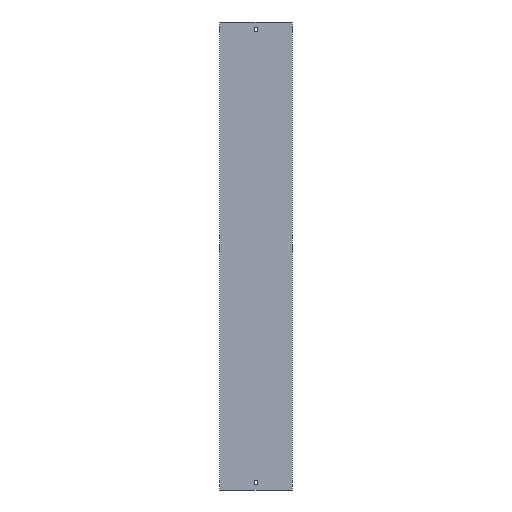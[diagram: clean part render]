
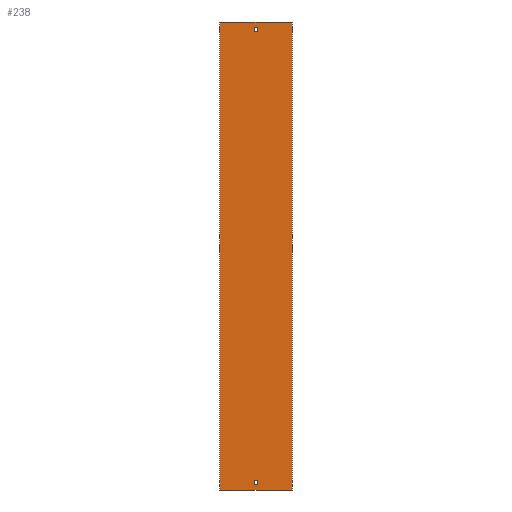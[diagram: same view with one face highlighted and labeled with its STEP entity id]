
A CAD part, front view. The second image highlights one B-rep face of the part: STEP entity #238.
In plain terms, the highlighted planar face has unit normal (0, -1, 0).
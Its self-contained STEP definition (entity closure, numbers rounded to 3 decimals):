
#15 = EDGE_CURVE ( 'NONE', #326, #116, #560, .T. ) ;
#53 = LINE ( 'NONE', #1107, #1040 ) ;
#78 = DIRECTION ( 'NONE',  ( 0., 0., 1. ) ) ;
#110 = VERTEX_POINT ( 'NONE', #1521 ) ;
#113 = CARTESIAN_POINT ( 'NONE',  ( -3.25, 0., -488. ) ) ;
#116 = VERTEX_POINT ( 'NONE', #589 ) ;
#129 = ORIENTED_EDGE ( 'NONE', *, *, #408, .T. ) ;
#147 = DIRECTION ( 'NONE',  ( 0., 0., -1. ) ) ;
#162 = LINE ( 'NONE', #1276, #1096 ) ;
#221 = VERTEX_POINT ( 'NONE', #872 ) ;
#238 = ADVANCED_FACE ( 'NONE', ( #1168, #1569, #1554 ), #509, .F. ) ;
#251 = CARTESIAN_POINT ( 'NONE',  ( -3.25, 0., 479. ) ) ;
#287 = EDGE_LOOP ( 'NONE', ( #510, #557, #1630, #1323 ) ) ;
#298 = VERTEX_POINT ( 'NONE', #1673 ) ;
#313 = DIRECTION ( 'NONE',  ( 1., 0., 0. ) ) ;
#326 = VERTEX_POINT ( 'NONE', #251 ) ;
#327 = LINE ( 'NONE', #842, #1017 ) ;
#363 = VECTOR ( 'NONE', #1484, 1000. ) ;
#377 = DIRECTION ( 'NONE',  ( -1., 0., 0. ) ) ;
#386 = VERTEX_POINT ( 'NONE', #1615 ) ;
#401 = CARTESIAN_POINT ( 'NONE',  ( -3.25, 0., 488. ) ) ;
#408 = EDGE_CURVE ( 'NONE', #447, #1370, #1198, .T. ) ;
#427 = CARTESIAN_POINT ( 'NONE',  ( -3.25, 0., 479. ) ) ;
#439 = ORIENTED_EDGE ( 'NONE', *, *, #1170, .F. ) ;
#447 = VERTEX_POINT ( 'NONE', #451 ) ;
#451 = CARTESIAN_POINT ( 'NONE',  ( -77., 0., 500. ) ) ;
#458 = LINE ( 'NONE', #1518, #520 ) ;
#475 = LINE ( 'NONE', #1655, #1612 ) ;
#509 = PLANE ( 'NONE',  #1551 ) ;
#510 = ORIENTED_EDGE ( 'NONE', *, *, #1247, .T. ) ;
#520 = VECTOR ( 'NONE', #78, 1000. ) ;
#526 = DIRECTION ( 'NONE',  ( 0., 0., -1. ) ) ;
#529 = DIRECTION ( 'NONE',  ( 1., 0., 0. ) ) ;
#557 = ORIENTED_EDGE ( 'NONE', *, *, #649, .T. ) ;
#560 = LINE ( 'NONE', #427, #1145 ) ;
#565 = ORIENTED_EDGE ( 'NONE', *, *, #848, .T. ) ;
#578 = DIRECTION ( 'NONE',  ( 0., 0., -1. ) ) ;
#586 = CARTESIAN_POINT ( 'NONE',  ( 3.25, 0., 488. ) ) ;
#589 = CARTESIAN_POINT ( 'NONE',  ( 3.25, 0., 479. ) ) ;
#620 = DIRECTION ( 'NONE',  ( 0., 0., -1. ) ) ;
#624 = VERTEX_POINT ( 'NONE', #586 ) ;
#639 = EDGE_CURVE ( 'NONE', #116, #624, #458, .T. ) ;
#647 = DIRECTION ( 'NONE',  ( 0., 1., 0. ) ) ;
#649 = EDGE_CURVE ( 'NONE', #737, #221, #162, .T. ) ;
#650 = EDGE_LOOP ( 'NONE', ( #1620, #1127, #439, #1623 ) ) ;
#665 = LINE ( 'NONE', #803, #882 ) ;
#688 = VECTOR ( 'NONE', #377, 1000. ) ;
#709 = CARTESIAN_POINT ( 'NONE',  ( -77., 0., -500. ) ) ;
#737 = VERTEX_POINT ( 'NONE', #784 ) ;
#756 = VERTEX_POINT ( 'NONE', #113 ) ;
#764 = ORIENTED_EDGE ( 'NONE', *, *, #1275, .F. ) ;
#784 = CARTESIAN_POINT ( 'NONE',  ( -3.25, 0., -479. ) ) ;
#803 = CARTESIAN_POINT ( 'NONE',  ( 3.25, 0., -488. ) ) ;
#842 = CARTESIAN_POINT ( 'NONE',  ( -3.25, 0., -488. ) ) ;
#848 = EDGE_CURVE ( 'NONE', #1370, #298, #967, .T. ) ;
#861 = DIRECTION ( 'NONE',  ( 0., 0., 1. ) ) ;
#872 = CARTESIAN_POINT ( 'NONE',  ( 3.25, 0., -479. ) ) ;
#882 = VECTOR ( 'NONE', #526, 1000. ) ;
#889 = CARTESIAN_POINT ( 'NONE',  ( -3.25, 0., 488. ) ) ;
#904 = DIRECTION ( 'NONE',  ( -1., 0., 0. ) ) ;
#923 = EDGE_CURVE ( 'NONE', #221, #110, #665, .T. ) ;
#924 = VERTEX_POINT ( 'NONE', #401 ) ;
#930 = ORIENTED_EDGE ( 'NONE', *, *, #1410, .F. ) ;
#935 = CARTESIAN_POINT ( 'NONE',  ( -77., 0., -500. ) ) ;
#967 = LINE ( 'NONE', #709, #363 ) ;
#985 = EDGE_LOOP ( 'NONE', ( #565, #764, #930, #129 ) ) ;
#1017 = VECTOR ( 'NONE', #861, 1000. ) ;
#1037 = DIRECTION ( 'NONE',  ( 1., 0., 0. ) ) ;
#1038 = CARTESIAN_POINT ( 'NONE',  ( -77., 0., 500. ) ) ;
#1040 = VECTOR ( 'NONE', #1125, 1000. ) ;
#1085 = EDGE_CURVE ( 'NONE', #110, #756, #53, .T. ) ;
#1096 = VECTOR ( 'NONE', #1037, 1000. ) ;
#1107 = CARTESIAN_POINT ( 'NONE',  ( -3.25, 0., -488. ) ) ;
#1125 = DIRECTION ( 'NONE',  ( -1., 0., 0. ) ) ;
#1127 = ORIENTED_EDGE ( 'NONE', *, *, #1469, .F. ) ;
#1145 = VECTOR ( 'NONE', #313, 1000. ) ;
#1154 = VECTOR ( 'NONE', #147, 1000. ) ;
#1160 = LINE ( 'NONE', #889, #688 ) ;
#1168 = FACE_OUTER_BOUND ( 'NONE', #985, .T. ) ;
#1170 = EDGE_CURVE ( 'NONE', #624, #924, #1160, .T. ) ;
#1172 = LINE ( 'NONE', #1427, #1154 ) ;
#1198 = LINE ( 'NONE', #1225, #1393 ) ;
#1225 = CARTESIAN_POINT ( 'NONE',  ( -77., 0., 500. ) ) ;
#1247 = EDGE_CURVE ( 'NONE', #756, #737, #327, .T. ) ;
#1275 = EDGE_CURVE ( 'NONE', #386, #298, #475, .T. ) ;
#1276 = CARTESIAN_POINT ( 'NONE',  ( -3.25, 0., -479. ) ) ;
#1323 = ORIENTED_EDGE ( 'NONE', *, *, #1085, .T. ) ;
#1370 = VERTEX_POINT ( 'NONE', #935 ) ;
#1393 = VECTOR ( 'NONE', #578, 1000. ) ;
#1410 = EDGE_CURVE ( 'NONE', #447, #386, #1678, .T. ) ;
#1427 = CARTESIAN_POINT ( 'NONE',  ( -3.25, 0., 488. ) ) ;
#1469 = EDGE_CURVE ( 'NONE', #924, #326, #1172, .T. ) ;
#1484 = DIRECTION ( 'NONE',  ( 1., 0., 0. ) ) ;
#1518 = CARTESIAN_POINT ( 'NONE',  ( 3.25, 0., 488. ) ) ;
#1521 = CARTESIAN_POINT ( 'NONE',  ( 3.25, 0., -488. ) ) ;
#1548 = CARTESIAN_POINT ( 'NONE',  ( -77., 0., 500. ) ) ;
#1551 = AXIS2_PLACEMENT_3D ( 'NONE', #1038, #647, #904 ) ;
#1554 = FACE_BOUND ( 'NONE', #287, .T. ) ;
#1555 = VECTOR ( 'NONE', #529, 1000. ) ;
#1569 = FACE_BOUND ( 'NONE', #650, .T. ) ;
#1612 = VECTOR ( 'NONE', #620, 1000. ) ;
#1615 = CARTESIAN_POINT ( 'NONE',  ( 77., 0., 500. ) ) ;
#1620 = ORIENTED_EDGE ( 'NONE', *, *, #15, .F. ) ;
#1623 = ORIENTED_EDGE ( 'NONE', *, *, #639, .F. ) ;
#1630 = ORIENTED_EDGE ( 'NONE', *, *, #923, .T. ) ;
#1655 = CARTESIAN_POINT ( 'NONE',  ( 77., 0., 500. ) ) ;
#1673 = CARTESIAN_POINT ( 'NONE',  ( 77., 0., -500. ) ) ;
#1678 = LINE ( 'NONE', #1548, #1555 ) ;
